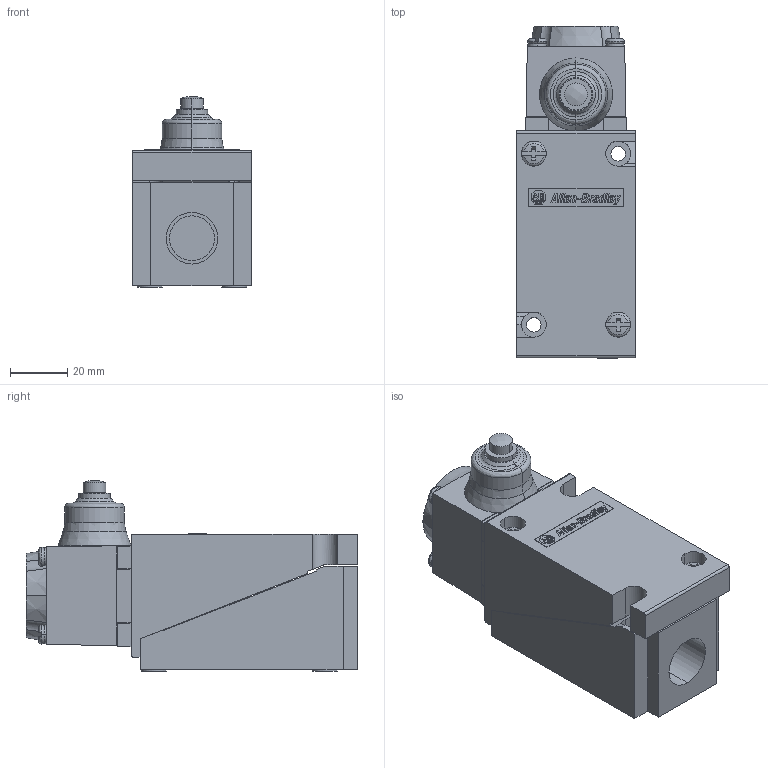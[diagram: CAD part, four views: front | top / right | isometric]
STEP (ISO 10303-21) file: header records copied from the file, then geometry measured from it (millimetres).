
FILE_DESCRIPTION (( 'STEP AP214' ), '1' );
FILE_NAME ('802T-CP.STEP', '2009-08-12T07:48:48', ( ' ' ), ( ' ' ), 'SwSTEP 2.0', 'SolidWorks 2007', '' );
FILE_SCHEMA (( 'AUTOMOTIVE_DESIGN' ));
Length unit declared in the file: millimetre
Products named in the file (1): 802T-CP
Bounding box: 41.27 x 115.46 x 66.22 mm (x, y, z)
Volume: 185072.8 mm3; surface area: 39605.3 mm2
Topology: 33 solids, 33 shells, 795 faces, 2103 edges, 1388 vertices
Faces by surface type: plane 685, cylinder 58, bspline 43, cone 9
Entity records: 34147 total; most frequent: CARTESIAN_POINT 5566, ORIENTED_EDGE 4206, DIRECTION 3656, EDGE_CURVE 2103, VECTOR 1782, LINE 1782, VERTEX_POINT 1388, AXIS2_PLACEMENT_3D 937
